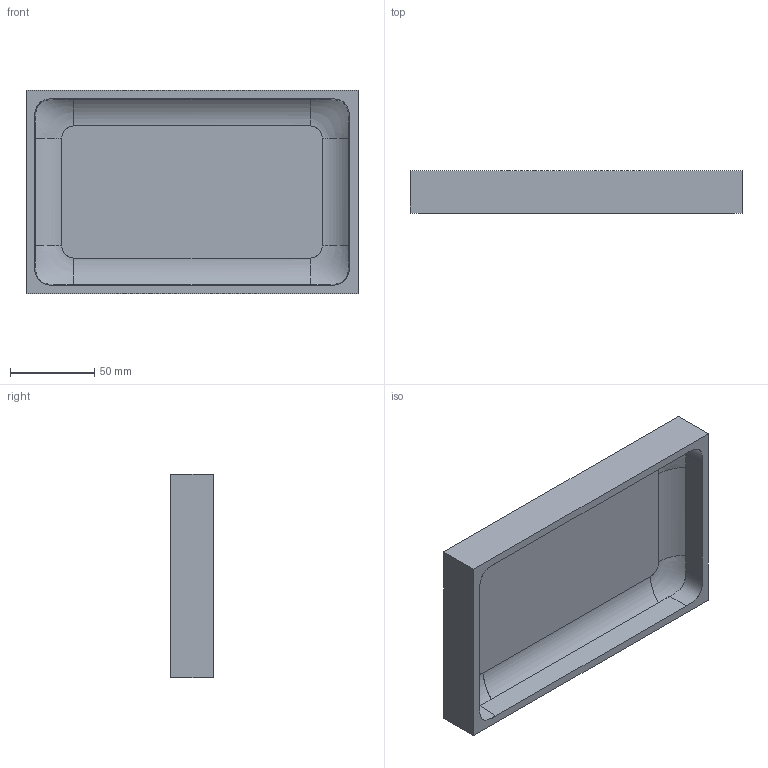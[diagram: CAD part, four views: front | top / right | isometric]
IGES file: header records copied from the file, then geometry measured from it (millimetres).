
Start section: SolidWorks IGES file using analytic representation for surfaces
Global section: file name: C:\Users\chad.chaiyont\My Project\MicroCase 3.0\MicroCase PID\M50-TOP-REV-A-PID 12-13-2022.IGS; native system: SolidWorks 2021; preprocessor: SolidWorks 2021; author: Chad.Chaiyont; date: 221213.140947; units: millimetre
Bounding box: 197.19 x 25.25 x 120.99 mm (x, y, z)
Surface area: 72254.5 mm2 (no closed solid volume)
Topology: 0 solids, 0 shells, 23 faces, 544 edges, 544 vertices
Faces by surface type: bspline 23
